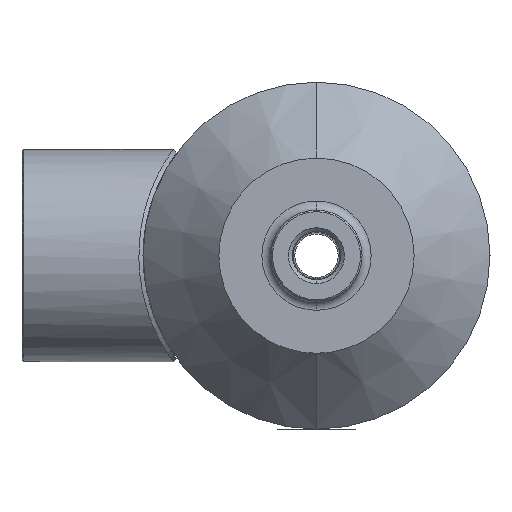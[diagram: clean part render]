
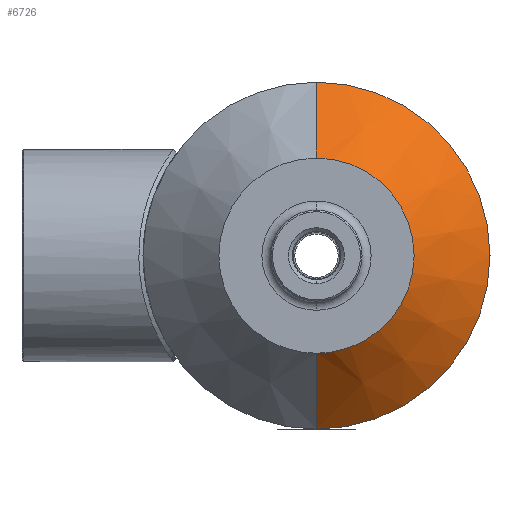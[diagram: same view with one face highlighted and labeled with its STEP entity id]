
A CAD part, front view. The second image highlights one B-rep face of the part: STEP entity #6726.
In plain terms, the highlighted conical face has half-angle 45 degrees and reference radius 57.15 mm.
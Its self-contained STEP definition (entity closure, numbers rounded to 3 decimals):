
#441 = ORIENTED_EDGE ( 'NONE', *, *, #2142, .F. ) ;
#525 = CIRCLE ( 'NONE', #12616, 57.15 ) ;
#712 = DIRECTION ( 'NONE',  ( 0., 0., 1. ) ) ;
#1313 = CONICAL_SURFACE ( 'NONE', #5520, 57.15, 0.785 ) ;
#1973 = DIRECTION ( 'NONE',  ( 0., 0., 1. ) ) ;
#1981 = CARTESIAN_POINT ( 'NONE',  ( 0., -8., 57.15 ) ) ;
#2018 = EDGE_CURVE ( 'NONE', #12009, #2074, #4248, .T. ) ;
#2074 = VERTEX_POINT ( 'NONE', #11734 ) ;
#2142 = EDGE_CURVE ( 'NONE', #11704, #12816, #8173, .T. ) ;
#4009 = CARTESIAN_POINT ( 'NONE',  ( 0., -33., -32.15 ) ) ;
#4157 = CARTESIAN_POINT ( 'NONE',  ( 0., -8., 0. ) ) ;
#4248 = LINE ( 'NONE', #15041, #11287 ) ;
#5520 = AXIS2_PLACEMENT_3D ( 'NONE', #4157, #12925, #1973 ) ;
#6726 = ADVANCED_FACE ( 'NONE', ( #12566 ), #1313, .T. ) ;
#6926 = EDGE_LOOP ( 'NONE', ( #10503, #10009, #10476, #441 ) ) ;
#7176 = CARTESIAN_POINT ( 'NONE',  ( 0., -8., 57.15 ) ) ;
#8173 = LINE ( 'NONE', #7176, #8572 ) ;
#8572 = VECTOR ( 'NONE', #14037, 1000. ) ;
#9413 = CARTESIAN_POINT ( 'NONE',  ( 0., -33., 0. ) ) ;
#9570 = DIRECTION ( 'NONE',  ( 0., -1., 0. ) ) ;
#10009 = ORIENTED_EDGE ( 'NONE', *, *, #2018, .T. ) ;
#10394 = AXIS2_PLACEMENT_3D ( 'NONE', #9413, #9570, #14118 ) ;
#10476 = ORIENTED_EDGE ( 'NONE', *, *, #11011, .F. ) ;
#10503 = ORIENTED_EDGE ( 'NONE', *, *, #11942, .F. ) ;
#11011 = EDGE_CURVE ( 'NONE', #12816, #2074, #525, .T. ) ;
#11287 = VECTOR ( 'NONE', #14820, 1000. ) ;
#11704 = VERTEX_POINT ( 'NONE', #13518 ) ;
#11734 = CARTESIAN_POINT ( 'NONE',  ( 0., -8., -57.15 ) ) ;
#11942 = EDGE_CURVE ( 'NONE', #12009, #11704, #14340, .T. ) ;
#12009 = VERTEX_POINT ( 'NONE', #4009 ) ;
#12566 = FACE_OUTER_BOUND ( 'NONE', #6926, .T. ) ;
#12616 = AXIS2_PLACEMENT_3D ( 'NONE', #13470, #13697, #712 ) ;
#12816 = VERTEX_POINT ( 'NONE', #1981 ) ;
#12925 = DIRECTION ( 'NONE',  ( 0., 1., 0. ) ) ;
#13470 = CARTESIAN_POINT ( 'NONE',  ( 0., -8., 0. ) ) ;
#13518 = CARTESIAN_POINT ( 'NONE',  ( 0., -33., 32.15 ) ) ;
#13697 = DIRECTION ( 'NONE',  ( 0., 1., 0. ) ) ;
#14037 = DIRECTION ( 'NONE',  ( 0., 0.707, 0.707 ) ) ;
#14118 = DIRECTION ( 'NONE',  ( 0., 0., 1. ) ) ;
#14340 = CIRCLE ( 'NONE', #10394, 32.15 ) ;
#14820 = DIRECTION ( 'NONE',  ( 0., 0.707, -0.707 ) ) ;
#15041 = CARTESIAN_POINT ( 'NONE',  ( 0., -8., -57.15 ) ) ;
